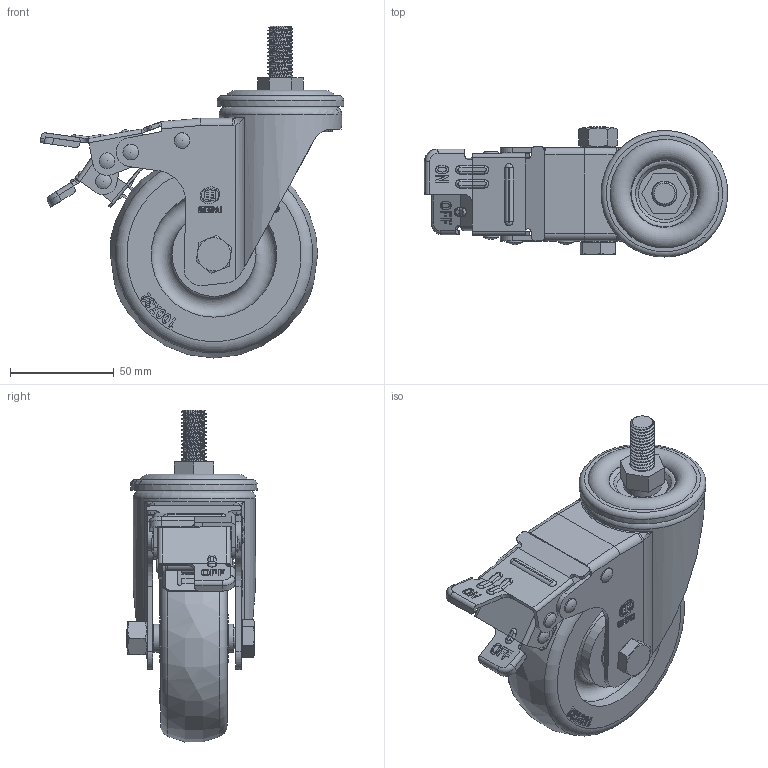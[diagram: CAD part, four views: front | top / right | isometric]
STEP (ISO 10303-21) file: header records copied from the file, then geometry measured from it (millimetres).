
FILE_DESCRIPTION(/* description */ (''),/* implementation_level */ '2;1');
FILE_NAME(/* name */ '20A9B_4_F.stp',/* time_stamp */ '2022-09-03T10:31:18+08:00',/* author */ (''),/* organization */ (''),/* preprocessor_version */ 'ST-DEVELOPER v14',/* originating_system */ 'SIEMENS PLM Software NX 8.0',/* authorisation */ '');
FILE_SCHEMA (('AUTOMOTIVE_DESIGN { 1 0 10303 214 3 1 1 1 }'));
Length unit declared in the file: millimetre
Products named in the file (1): 20A9B_4_F
Bounding box: 146.2 x 62.75 x 159.93 mm (x, y, z)
Volume: 285512.2 mm3; surface area: 95152.2 mm2
Topology: 1 solids, 1 shells, 1199 faces, 3298 edges, 2172 vertices
Faces by surface type: plane 671, cylinder 318, torus 55, sphere 42, bspline 41, cone 36, extrusion 36
Full cylindrical faces by diameter (mm): 2.841 x1, 3.44 x1, 4 x4, 5 x6, 5.2 x16, 7.5 x4, 10 x2, 10.2 x2, 12 x1, 12.2 x1, 12.496 x1, 13.6 x2, 16 x1, 18 x1, 23 x2, 30.122 x1, 40.5 x2, 45.996 x1, 54 x1, 56 x1, 59 x1, 60.5 x2, 61 x1
Entity records: 46385 total; most frequent: CARTESIAN_POINT 17946, ORIENTED_EDGE 6070, DIRECTION 5395, EDGE_CURVE 3035, VERTEX_POINT 2051, AXIS2_PLACEMENT_3D 1863, VECTOR 1669, LINE 1633
